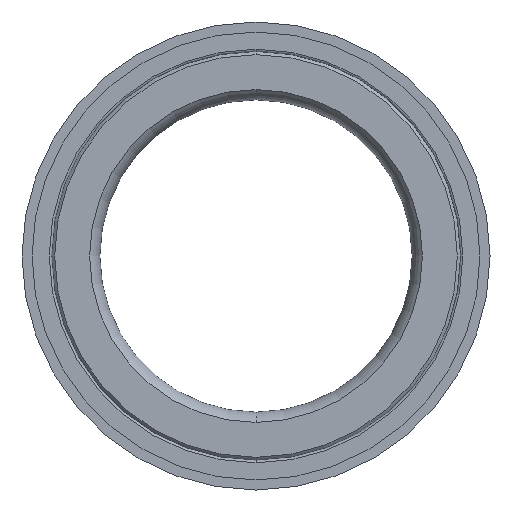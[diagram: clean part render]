
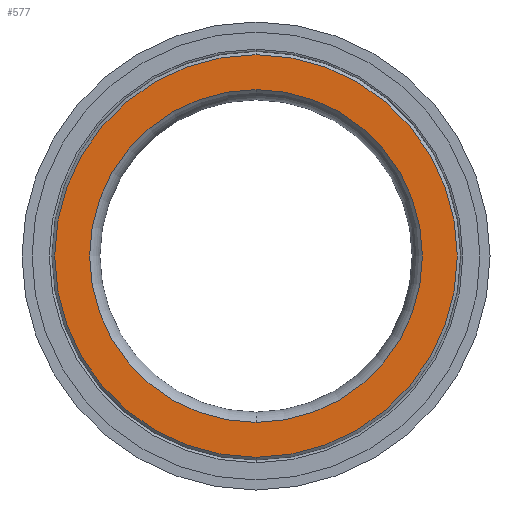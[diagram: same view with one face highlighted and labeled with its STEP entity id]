
A CAD part, left-side view. The second image highlights one B-rep face of the part: STEP entity #577.
In plain terms, the highlighted planar face has unit normal (-1, 0, 0).
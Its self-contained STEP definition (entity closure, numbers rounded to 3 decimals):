
#149=CARTESIAN_POINT('',(-1.95,0.,0.));
#150=DIRECTION('',(1.,0.,0.));
#151=DIRECTION('',(0.,0.,-1.));
#152=AXIS2_PLACEMENT_3D('',#149,#150,#151);
#159=CARTESIAN_POINT('',(-1.95,0.,0.));
#160=DIRECTION('',(1.,0.,0.));
#161=DIRECTION('',(0.,0.,1.));
#162=AXIS2_PLACEMENT_3D('',#159,#160,#161);
#174=CARTESIAN_POINT('',(-1.95,0.,0.));
#175=DIRECTION('',(1.,0.,0.));
#176=DIRECTION('',(0.,0.,-1.));
#177=AXIS2_PLACEMENT_3D('',#174,#175,#176);
#194=CARTESIAN_POINT('',(-1.95,0.,0.));
#195=DIRECTION('',(1.,0.,0.));
#196=DIRECTION('',(0.,0.,1.));
#197=AXIS2_PLACEMENT_3D('',#194,#195,#196);
#299=CARTESIAN_POINT('',(-1.95,0.,-14.936));
#300=CARTESIAN_POINT('',(-1.95,0.,14.936));
#301=VERTEX_POINT('',#299);
#302=VERTEX_POINT('',#300);
#303=CARTESIAN_POINT('',(-1.95,0.,-18.064));
#304=CARTESIAN_POINT('',(-1.95,0.,
18.064));
#305=VERTEX_POINT('',#303);
#306=VERTEX_POINT('',#304);
#562=CARTESIAN_POINT('',(-1.95,0.,0.));
#563=DIRECTION('',(-1.,0.,0.));
#564=DIRECTION('',(0.,1.,0.));
#565=AXIS2_PLACEMENT_3D('',#562,#563,#564);
#566=PLANE('',#565);
#567=ORIENTED_EDGE('',*,*,#528,.T.);
#568=ORIENTED_EDGE('',*,*,#549,.T.);
#569=EDGE_LOOP('',(#567,#568));
#570=FACE_OUTER_BOUND('',#569,.F.);
#572=ORIENTED_EDGE('',*,*,#571,.F.);
#574=ORIENTED_EDGE('',*,*,#573,.F.);
#575=EDGE_LOOP('',(#572,#574));
#576=FACE_BOUND('',#575,.F.);
#153=CIRCLE('',#152,18.064);
#163=CIRCLE('',#162,18.064);
#178=CIRCLE('',#177,14.936);
#198=CIRCLE('',#197,14.936);
#528=EDGE_CURVE('',#305,#306,#153,.T.);
#549=EDGE_CURVE('',#306,#305,#163,.T.);
#571=EDGE_CURVE('',#301,#302,#178,.T.);
#573=EDGE_CURVE('',#302,#301,#198,.T.);
#577=ADVANCED_FACE('',(#570,#576),#566,.T.);
